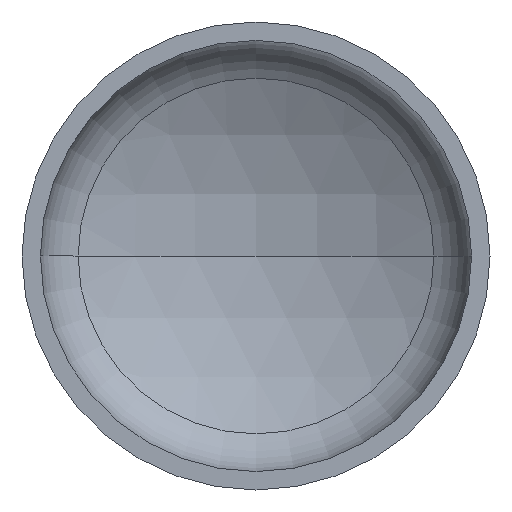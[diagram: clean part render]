
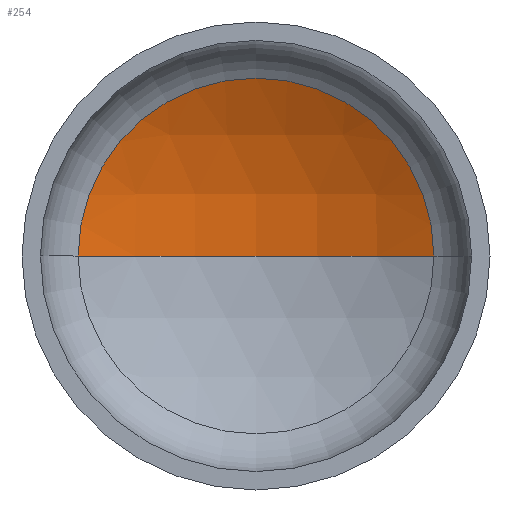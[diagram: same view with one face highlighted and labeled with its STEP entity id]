
A CAD part, front view. The second image highlights one B-rep face of the part: STEP entity #254.
In plain terms, the highlighted spherical face has radius 406 mm.
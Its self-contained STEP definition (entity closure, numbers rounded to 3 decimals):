
#2 = CARTESIAN_POINT ( 'NONE',  ( 0., -228.527, 0. ) ) ;
#8 = VERTEX_POINT ( 'NONE', #264 ) ;
#21 = AXIS2_PLACEMENT_3D ( 'NONE', #153, #392, #111 ) ;
#52 = AXIS2_PLACEMENT_3D ( 'NONE', #2, #179, #362 ) ;
#58 = AXIS2_PLACEMENT_3D ( 'NONE', #196, #199, #165 ) ;
#59 = AXIS2_PLACEMENT_3D ( 'NONE', #382, #253, #401 ) ;
#71 = FACE_OUTER_BOUND ( 'NONE', #213, .T. ) ;
#83 = VERTEX_POINT ( 'NONE', #219 ) ;
#92 = ORIENTED_EDGE ( 'NONE', *, *, #102, .T. ) ;
#102 = EDGE_CURVE ( 'NONE', #8, #83, #117, .T. ) ;
#104 = EDGE_CURVE ( 'NONE', #173, #8, #347, .T. ) ;
#111 = DIRECTION ( 'NONE',  ( -1., 0., 0. ) ) ;
#117 = CIRCLE ( 'NONE', #58, 193.098 ) ;
#118 = EDGE_CURVE ( 'NONE', #173, #83, #290, .T. ) ;
#153 = CARTESIAN_POINT ( 'NONE',  ( 0., -228.527, 0. ) ) ;
#165 = DIRECTION ( 'NONE',  ( 1., 0., 0. ) ) ;
#173 = VERTEX_POINT ( 'NONE', #258 ) ;
#179 = DIRECTION ( 'NONE',  ( 0., 0., 1. ) ) ;
#184 = ORIENTED_EDGE ( 'NONE', *, *, #104, .T. ) ;
#196 = CARTESIAN_POINT ( 'NONE',  ( 0., 128.613, 0. ) ) ;
#199 = DIRECTION ( 'NONE',  ( 0., -1., 0. ) ) ;
#202 = ORIENTED_EDGE ( 'NONE', *, *, #118, .F. ) ;
#213 = EDGE_LOOP ( 'NONE', ( #202, #184, #92 ) ) ;
#219 = CARTESIAN_POINT ( 'NONE',  ( -193.098, 128.613, 0. ) ) ;
#253 = DIRECTION ( 'NONE',  ( 0., 0., -1. ) ) ;
#254 = ADVANCED_FACE ( 'NONE', ( #71 ), #328, .F. ) ;
#258 = CARTESIAN_POINT ( 'NONE',  ( 0., 177.473, 0. ) ) ;
#264 = CARTESIAN_POINT ( 'NONE',  ( 193.098, 128.613, 0. ) ) ;
#290 = CIRCLE ( 'NONE', #52, 406. ) ;
#328 = SPHERICAL_SURFACE ( 'NONE', #21, 406. ) ;
#347 = CIRCLE ( 'NONE', #59, 406. ) ;
#362 = DIRECTION ( 'NONE',  ( 1., 0., 0. ) ) ;
#382 = CARTESIAN_POINT ( 'NONE',  ( 0., -228.527, 0. ) ) ;
#392 = DIRECTION ( 'NONE',  ( 0., 0., -1. ) ) ;
#401 = DIRECTION ( 'NONE',  ( -1., 0., 0. ) ) ;
